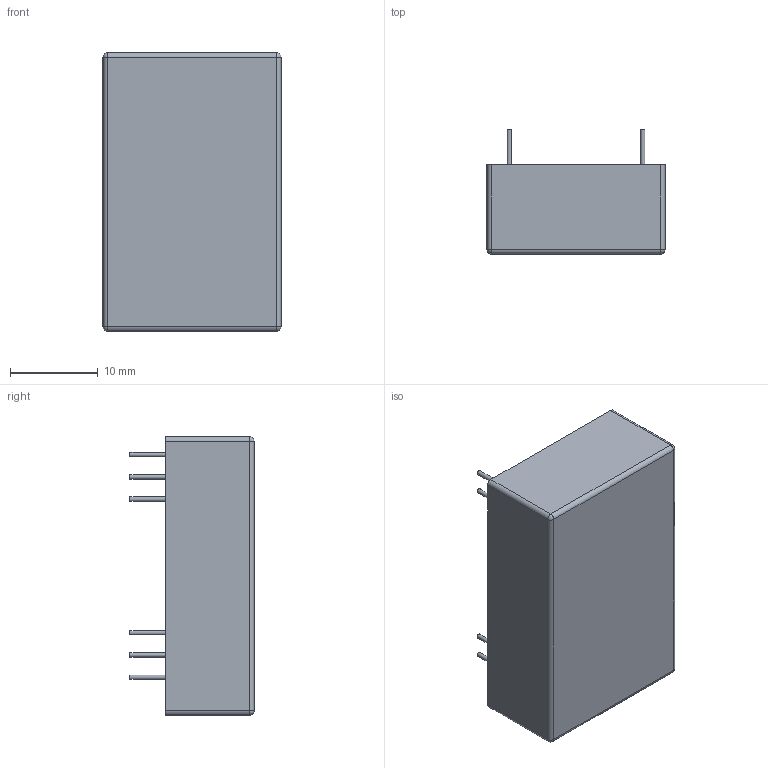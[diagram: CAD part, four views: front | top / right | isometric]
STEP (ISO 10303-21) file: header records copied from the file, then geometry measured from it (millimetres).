
FILE_DESCRIPTION(/* description */ (''),/* implementation_level */ '2;1');
FILE_NAME(/* name */ '',/* time_stamp */ '2022-03-21T10:52:47+01:00',/* author */ (''),/* organization */ (''),/* preprocessor_version */ 'ST-DEVELOPER v18.1',/* originating_system */ '',/* authorisation */ '');
FILE_SCHEMA (('AUTOMOTIVE_DESIGN { 1 0 10303 214 3 1 1 }'));
Length unit declared in the file: millimetre
Products named in the file (1): JETDi20-C1_case_v1_pins
Bounding box: 20.32 x 14.16 x 31.75 mm (x, y, z)
Volume: 6257.5 mm3; surface area: 2424.1 mm2
Topology: 1 solids, 1 shells, 43 faces, 84 edges, 52 vertices
Faces by surface type: cylinder 20, plane 19, sphere 4
Full cylindrical faces by diameter (mm): 0.508 x8
Entity records: 1143 total; most frequent: DIRECTION 212, CARTESIAN_POINT 180, ORIENTED_EDGE 168, EDGE_CURVE 84, AXIS2_PLACEMENT_3D 84, EDGE_LOOP 52, VERTEX_POINT 52, LINE 44
